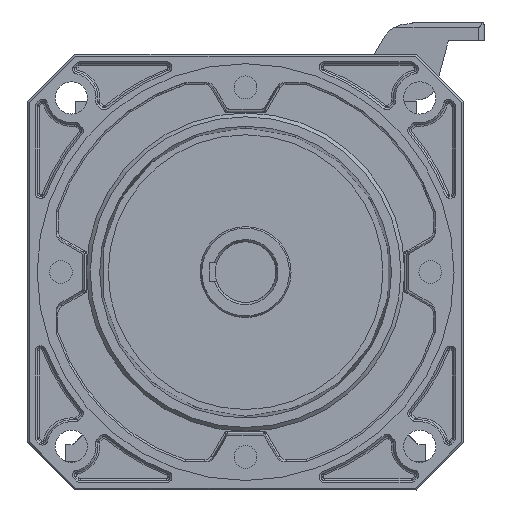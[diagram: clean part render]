
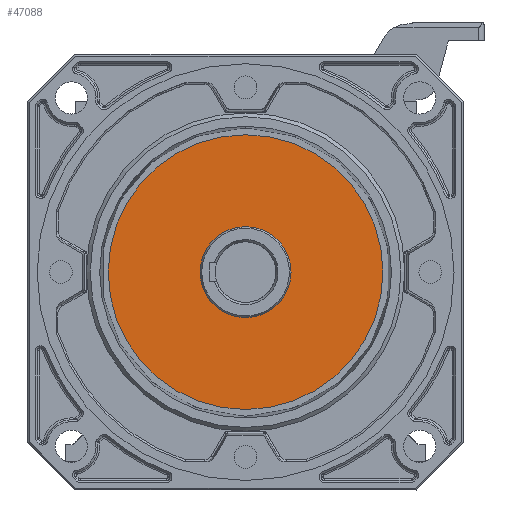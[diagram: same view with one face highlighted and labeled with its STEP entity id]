
A CAD part, left-side view. The second image highlights one B-rep face of the part: STEP entity #47088.
In plain terms, the highlighted planar face has unit normal (-1, 0, 0).
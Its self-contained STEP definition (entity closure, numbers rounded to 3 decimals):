
#1773=FACE_BOUND('',#8268,.T.);
#3135=CIRCLE('',#49924,24.);
#3136=CIRCLE('',#49926,72.5);
#5501=FACE_OUTER_BOUND('',#8267,.T.);
#8267=EDGE_LOOP('',(#31278));
#8268=EDGE_LOOP('',(#31279));
#19168=VERTEX_POINT('',#70083);
#19169=VERTEX_POINT('',#70086);
#23915=EDGE_CURVE('',#19168,#19168,#3135,.T.);
#23916=EDGE_CURVE('',#19169,#19169,#3136,.T.);
#31278=ORIENTED_EDGE('',*,*,#23916,.F.);
#31279=ORIENTED_EDGE('',*,*,#23915,.T.);
#45975=PLANE('',#49925);
#47088=ADVANCED_FACE('',(#5501,#1773),#45975,.T.);
#49924=AXIS2_PLACEMENT_3D('',#70084,#55381,#55382);
#49925=AXIS2_PLACEMENT_3D('',#70085,#55383,#55384);
#49926=AXIS2_PLACEMENT_3D('',#70087,#55385,#55386);
#55381=DIRECTION('center_axis',(1.,0.,0.));
#55382=DIRECTION('ref_axis',(0.,0.,-1.));
#55383=DIRECTION('center_axis',(-1.,0.,0.));
#55384=DIRECTION('ref_axis',(0.,0.,1.));
#55385=DIRECTION('center_axis',(1.,0.,0.));
#55386=DIRECTION('ref_axis',(0.,0.,-1.));
#70083=CARTESIAN_POINT('',(-139.,7274.885,-3768.217));
#70084=CARTESIAN_POINT('Origin',(-139.,7274.885,-3792.217));
#70085=CARTESIAN_POINT('Origin',(-139.,7274.885,-3719.717));
#70086=CARTESIAN_POINT('',(-139.,7274.885,-3719.717));
#70087=CARTESIAN_POINT('Origin',(-139.,7274.885,-3792.217));
